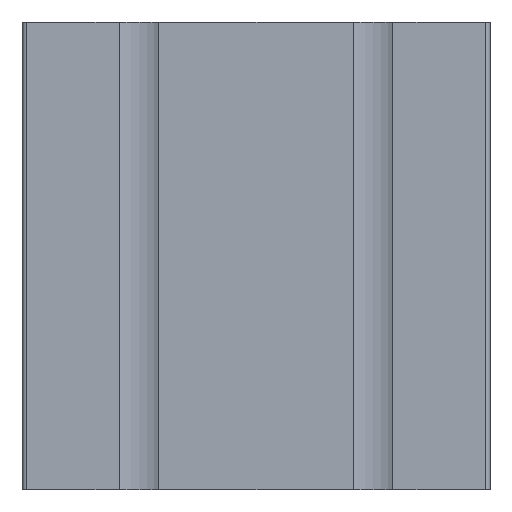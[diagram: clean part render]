
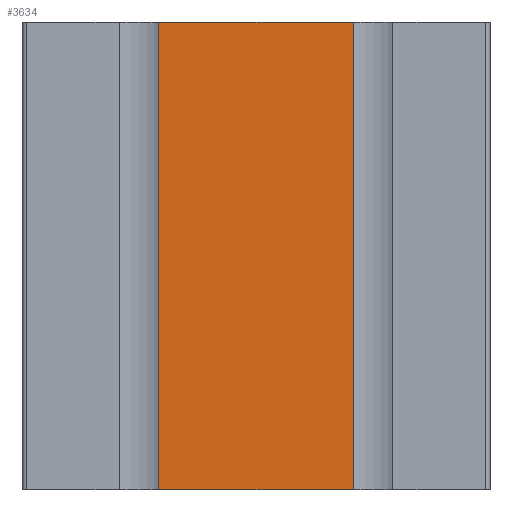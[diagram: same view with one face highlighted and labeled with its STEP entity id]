
A CAD part, front view. The second image highlights one B-rep face of the part: STEP entity #3634.
In plain terms, the highlighted planar face has unit normal (0, -1, 0).
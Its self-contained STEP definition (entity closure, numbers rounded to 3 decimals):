
#118=PLANE('',#3986);
#298=FACE_OUTER_BOUND('',#484,.T.);
#484=EDGE_LOOP('',(#2975,#2976,#2977,#2978));
#846=LINE('',#6090,#1210);
#847=LINE('',#6093,#1211);
#848=LINE('',#6095,#1212);
#849=LINE('',#6096,#1213);
#1210=VECTOR('',#5014,10.);
#1211=VECTOR('',#5017,10.);
#1212=VECTOR('',#5018,10.);
#1213=VECTOR('',#5019,10.);
#1749=VERTEX_POINT('',#6086);
#1750=VERTEX_POINT('',#6088);
#1751=VERTEX_POINT('',#6092);
#1752=VERTEX_POINT('',#6094);
#2274=EDGE_CURVE('',#1749,#1750,#846,.T.);
#2275=EDGE_CURVE('',#1751,#1749,#847,.T.);
#2276=EDGE_CURVE('',#1752,#1750,#848,.T.);
#2277=EDGE_CURVE('',#1751,#1752,#849,.T.);
#2975=ORIENTED_EDGE('',*,*,#2275,.T.);
#2976=ORIENTED_EDGE('',*,*,#2274,.T.);
#2977=ORIENTED_EDGE('',*,*,#2276,.F.);
#2978=ORIENTED_EDGE('',*,*,#2277,.F.);
#3634=ADVANCED_FACE('',(#298),#118,.T.);
#3986=AXIS2_PLACEMENT_3D('',#6091,#5015,#5016);
#5014=DIRECTION('',(0.,0.,1.));
#5015=DIRECTION('center_axis',(0.,-1.,0.));
#5016=DIRECTION('ref_axis',(1.,0.,0.));
#5017=DIRECTION('',(1.,0.,0.));
#5018=DIRECTION('',(1.,0.,0.));
#5019=DIRECTION('',(0.,0.,1.));
#6086=CARTESIAN_POINT('',(77.,4.82,0.));
#6088=CARTESIAN_POINT('',(77.,4.82,100.));
#6090=CARTESIAN_POINT('',(77.,4.82,0.));
#6091=CARTESIAN_POINT('Origin',(35.5,4.82,0.));
#6092=CARTESIAN_POINT('',(35.5,4.82,0.));
#6093=CARTESIAN_POINT('',(35.5,4.82,0.));
#6094=CARTESIAN_POINT('',(35.5,4.82,100.));
#6095=CARTESIAN_POINT('',(35.5,4.82,100.));
#6096=CARTESIAN_POINT('',(35.5,4.82,0.));
